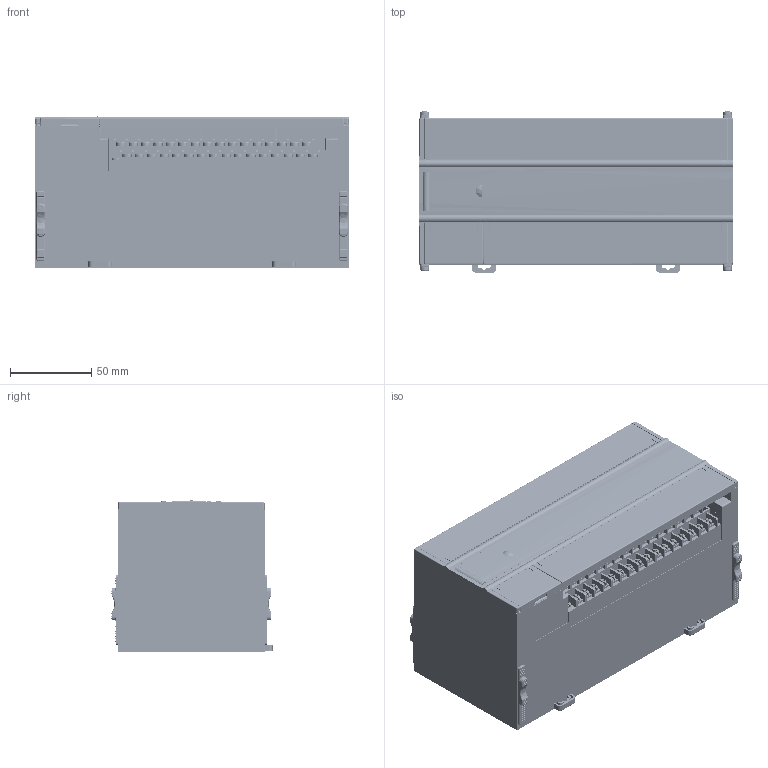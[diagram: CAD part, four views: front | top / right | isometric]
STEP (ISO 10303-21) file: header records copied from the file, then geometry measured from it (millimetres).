
FILE_DESCRIPTION((''),'2;1');
FILE_NAME('0-VC1-3624MAT_ASM','2022-11-11T',('v3615'),(''),'CREO PARAMETRIC BY PTC INC, 2016260','CREO PARAMETRIC BY PTC INC, 2016260','');
FILE_SCHEMA(('AUTOMOTIVE_DESIGN { 1 0 10303 214 1 1 1 1 }'));
Products named in the file (69): PLC_SKEL0001-VC1-3624; VC1-3624MAT-P001; VC1-3624MAT-P001_ASM; VC1-3624MAT-P002; VC1-3624MAT-P003; VC1-1614MAT-P005; VC1-1614MAT-P007; VC1-3624MAT-P005_ASM; VC1-3624MAT-P004; VC1-3624MAT-P006; VC3-3232MAT-P003; VC1-1614MAT-P003; VC1-1614MAT-P006; VC1-1614MAT-P008; VC1-1614MAT-P010; VC1-1614MAT-P009; VC1-3624MAT-P_ASM; PRT0002; SOP4-100-173A; CAPC2-80-200-440; SD1812; F2-200B; LR4-280-320; SOT23; SR0603; SOP8-50-157; SD2215; SC0805; TO220-3L-9; SOP8-50-155; DO2-170-110-48; LC2-197A; SR1206; CAP2-400-13X5; HEAD0207-TA; TO220-3T-B; CAPC2-400-1000-1000-F; CAP2-400-10X8; SC0603; SR0805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
Assembly tree (140 placements, depth 4):
  0-VC1-3624MAT_ASM
    PLC_SKEL0001-VC1-3624
    VC1-3624MAT-P_ASM
      VC1-3624MAT-P001_ASM
        VC1-3624MAT-P001
      VC1-3624MAT-P005_ASM
        VC1-3624MAT-P002
        VC1-3624MAT-P003
        VC1-1614MAT-P005  x4
        VC1-1614MAT-P007
      VC1-3624MAT-P004
      VC1-3624MAT-P006
      VC3-3232MAT-P003
      VC1-1614MAT-P003
      VC1-1614MAT-P006  x2
      VC1-1614MAT-P008
      VC1-1614MAT-P010  x4
      VC1-1614MAT-P009
    VC1-3624MAT-D_ASM
      XXX1-ARAC1_ASM
        PRT0002
        SOP4-100-173A  x2
        CAPC2-80-200-440
        SD1812  x2
        F2-200B
        LR4-280-320
        SOT23  x4
        SR0603  x7
        SOP8-50-157
        SD2215
        SC0805  x14
        TO220-3L-9
        SOP8-50-155
        DO2-170-110-48  x2
        LC2-197A
        SR1206  x8
        CAP2-400-13X5  x2
        HEAD0207-TA
        TO220-3T-B
        CAPC2-400-1000-1000-F
        CAP2-400-10X8
        SC0603  x8
        SR0805  x24
        CAP2-400-7X7
        CAPC2-200-400-500  x2
        SC1206  x2
        T12-200-1200C
        CAPC2-200-400-800
        CAP2-400-13X4
        TB762
        1420050941-VC1AC30POW-A1_1-0712
      VC1-3624MAT-IO_ASM
        VC1-3624MAT-IO
        IDC14-90
        IDC14-ORM-A
        PRT0015
        TB762-06-20P-GY6
        TB762-06-16P-GY6
        VC1-3624MAT-IO_20220223
      VC1-3624MAT-CON_ASM
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Bounding box: 192.69 x 99.2 x 92.9 mm (x, y, z)
Volume: 1748880.8 mm3; surface area: 534746 mm2
Topology: 129 solids, 136 shells, 13728 faces, 36256 edges, 23373 vertices
Faces by surface type: plane 7799, cylinder 3568, torus 1331, cone 701, bspline 264, sphere 48, extrusion 17
Entity records: 502833 total; most frequent: CARTESIAN_POINT 89462, ORIENTED_EDGE 63142, DIRECTION 59518, EDGE_CURVE 31594, PRESENTATION_STYLE_ASSIGNMENT 29727, STYLED_ITEM 27614, CURVE_STYLE 27432, VECTOR 21444
